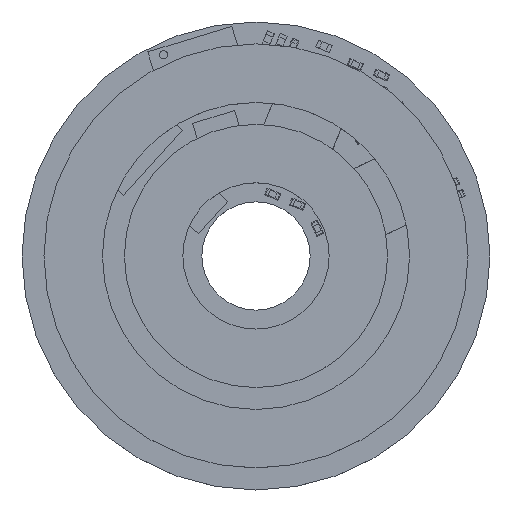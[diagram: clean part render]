
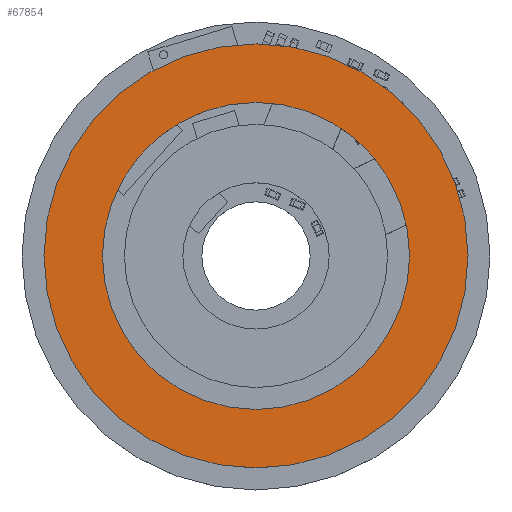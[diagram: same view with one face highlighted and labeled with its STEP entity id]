
A CAD part, top view. The second image highlights one B-rep face of the part: STEP entity #67854.
In plain terms, the highlighted planar face has unit normal (0, 0, 1) as drawn and (0, 0, -1) by its records, which use the part's own axes.
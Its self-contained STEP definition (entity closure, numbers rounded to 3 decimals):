
#67642=CARTESIAN_POINT('',(0.,0.,-0.55));
#67643=DIRECTION('',(0.,0.,1.));
#67644=DIRECTION('',(-1.,0.,0.));
#67645=AXIS2_PLACEMENT_3D('',#67642,#67643,#67644);
#67650=CARTESIAN_POINT('',(0.,0.,-0.55));
#67651=DIRECTION('',(0.,0.,1.));
#67652=DIRECTION('',(0.,-1.,0.));
#67653=AXIS2_PLACEMENT_3D('',#67650,#67651,#67652);
#67658=CARTESIAN_POINT('',(0.,0.,-0.55));
#67659=DIRECTION('',(0.,0.,1.));
#67660=DIRECTION('',(1.,0.,0.));
#67661=AXIS2_PLACEMENT_3D('',#67658,#67659,#67660);
#67666=CARTESIAN_POINT('',(0.,0.,-0.55));
#67667=DIRECTION('',(0.,0.,1.));
#67668=DIRECTION('',(0.,1.,0.));
#67669=AXIS2_PLACEMENT_3D('',#67666,#67667,#67668);
#67674=CARTESIAN_POINT('',(0.,0.,-0.55));
#67675=DIRECTION('',(0.,0.,-1.));
#67676=DIRECTION('',(-1.,0.,0.));
#67677=AXIS2_PLACEMENT_3D('',#67674,#67675,#67676);
#67682=CARTESIAN_POINT('',(0.,0.,-0.55));
#67683=DIRECTION('',(0.,0.,-1.));
#67684=DIRECTION('',(0.,1.,0.));
#67685=AXIS2_PLACEMENT_3D('',#67682,#67683,#67684);
#67690=CARTESIAN_POINT('',(0.,0.,-0.55));
#67691=DIRECTION('',(0.,0.,-1.));
#67692=DIRECTION('',(1.,0.,0.));
#67693=AXIS2_PLACEMENT_3D('',#67690,#67691,#67692);
#67698=CARTESIAN_POINT('',(0.,0.,-0.55));
#67699=DIRECTION('',(0.,0.,-1.));
#67700=DIRECTION('',(0.,-1.,0.));
#67701=AXIS2_PLACEMENT_3D('',#67698,#67699,#67700);
#67736=CARTESIAN_POINT('',(14.5,0.,-0.55));
#67737=VERTEX_POINT('',#67736);
#67738=CARTESIAN_POINT('',(0.,-14.5,-0.55));
#67739=VERTEX_POINT('',#67738);
#67740=CARTESIAN_POINT('',(-14.5,0.,-0.55));
#67741=VERTEX_POINT('',#67740);
#67742=CARTESIAN_POINT('',(0.,14.5,-0.55));
#67743=VERTEX_POINT('',#67742);
#67744=CARTESIAN_POINT('',(-10.5,0.,-0.55));
#67745=CARTESIAN_POINT('',(0.,10.5,-0.55));
#67746=VERTEX_POINT('',#67744);
#67747=VERTEX_POINT('',#67745);
#67748=CARTESIAN_POINT('',(10.5,0.,-0.55));
#67749=VERTEX_POINT('',#67748);
#67750=CARTESIAN_POINT('',(0.,-10.5,-0.55));
#67751=VERTEX_POINT('',#67750);
#67833=CARTESIAN_POINT('',(0.,0.,-0.55));
#67834=DIRECTION('',(0.,0.,-1.));
#67835=DIRECTION('',(0.,-1.,0.));
#67836=AXIS2_PLACEMENT_3D('',#67833,#67834,#67835);
#67837=PLANE('',#67836);
#67838=ORIENTED_EDGE('',*,*,#67796,.T.);
#67839=ORIENTED_EDGE('',*,*,#67794,.T.);
#67840=ORIENTED_EDGE('',*,*,#67820,.T.);
#67841=ORIENTED_EDGE('',*,*,#67818,.T.);
#67842=EDGE_LOOP('',(#67838,#67839,#67840,#67841));
#67843=FACE_OUTER_BOUND('',#67842,.F.);
#67845=ORIENTED_EDGE('',*,*,#67844,.T.);
#67847=ORIENTED_EDGE('',*,*,#67846,.T.);
#67849=ORIENTED_EDGE('',*,*,#67848,.T.);
#67851=ORIENTED_EDGE('',*,*,#67850,.T.);
#67852=EDGE_LOOP('',(#67845,#67847,#67849,#67851));
#67853=FACE_BOUND('',#67852,.F.);
#67854=ADVANCED_FACE('',(#67843,#67853),#67837,.T.);
#67646=CIRCLE('',#67645,14.5);
#67654=CIRCLE('',#67653,14.5);
#67662=CIRCLE('',#67661,14.5);
#67670=CIRCLE('',#67669,14.5);
#67678=CIRCLE('',#67677,10.5);
#67686=CIRCLE('',#67685,10.5);
#67694=CIRCLE('',#67693,10.5);
#67702=CIRCLE('',#67701,10.5);
#67794=EDGE_CURVE('',#67739,#67737,#67654,.T.);
#67796=EDGE_CURVE('',#67741,#67739,#67646,.T.);
#67818=EDGE_CURVE('',#67743,#67741,#67670,.T.);
#67820=EDGE_CURVE('',#67737,#67743,#67662,.T.);
#67844=EDGE_CURVE('',#67746,#67747,#67678,.T.);
#67846=EDGE_CURVE('',#67747,#67749,#67686,.T.);
#67848=EDGE_CURVE('',#67749,#67751,#67694,.T.);
#67850=EDGE_CURVE('',#67751,#67746,#67702,.T.);
